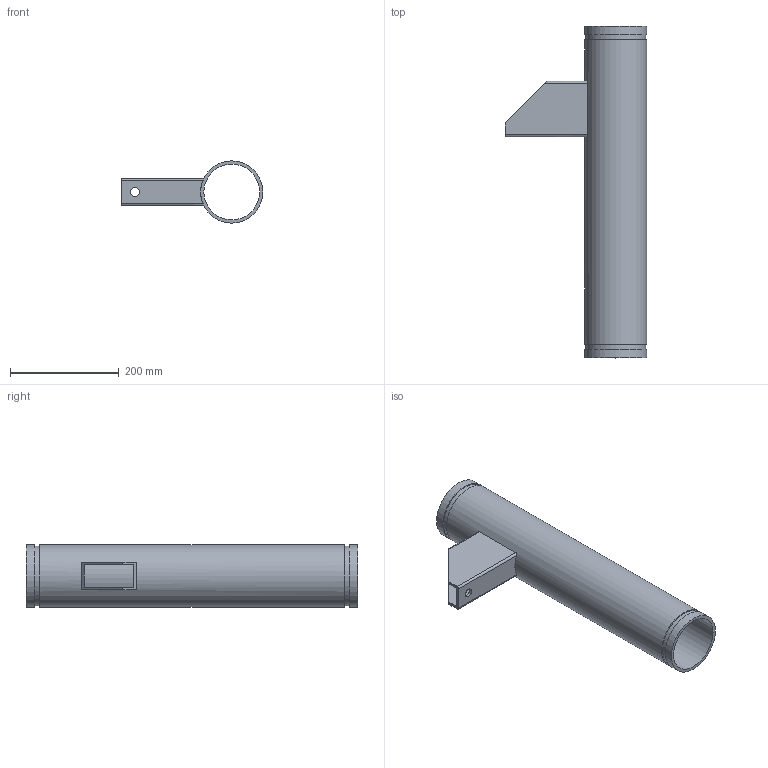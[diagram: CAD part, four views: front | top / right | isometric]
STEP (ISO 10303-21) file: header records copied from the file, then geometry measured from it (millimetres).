
FILE_DESCRIPTION(/* description */ ('VIC FLOOR MOUNTED RISER ANCHOR No A40'),/* implementation_level */ '2;1');
FILE_NAME(/* name */ 'C:\Files for Export\A40 & A40S-STEP-SWX\STEP\Victaulic_IPS_Riser Anchor_No A40 (OGS)\Victaulic_IPS_Riser Anchor_No A40 (OGS)_4 (100).stp',/* time_stamp */ '2024-06-07T07:36:24+02:00',/* author */ ('kkamble'),/* organization */ ('Victaulic'),/* preprocessor_version */ 'ST-DEVELOPER v18.1',/* originating_system */ 'Autodesk Inventor 2020',/* authorisation */ '');
FILE_SCHEMA (('AUTOMOTIVE_DESIGN { 1 0 10303 214 3 1 1 }'));
Length unit declared in the file: inch
Products named in the file (1): A40-04.0
Bounding box: 260.35 x 609.6 x 114.3 mm (x, y, z)
Volume: 1393605 mm3; surface area: 488789.8 mm2
Topology: 1 solids, 1 shells, 28 faces, 78 edges, 56 vertices
Faces by surface type: plane 16, cylinder 12
Full cylindrical faces by diameter (mm): 15.875 x1, 102.362 x1, 110.084 x2, 114.3 x3
Entity records: 1041 total; most frequent: CARTESIAN_POINT 199, DIRECTION 168, ORIENTED_EDGE 156, EDGE_CURVE 78, AXIS2_PLACEMENT_3D 65, VERTEX_POINT 56, LINE 38, VECTOR 38
